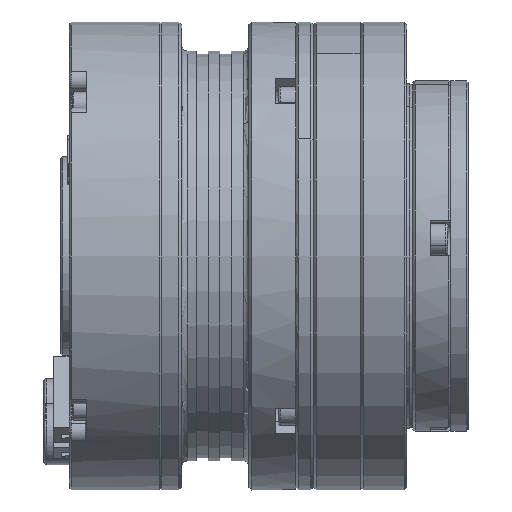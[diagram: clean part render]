
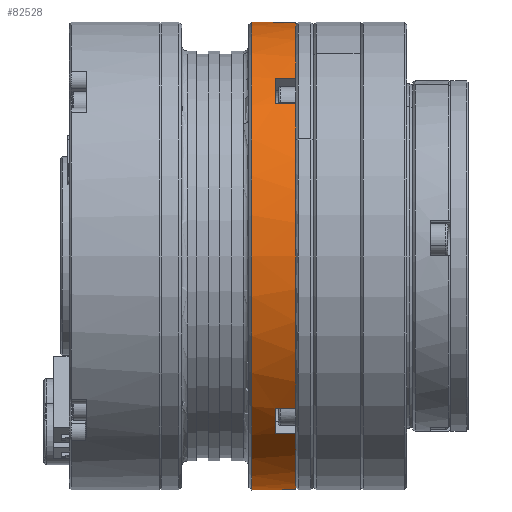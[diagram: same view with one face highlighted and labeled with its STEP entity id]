
A CAD part, front view. The second image highlights one B-rep face of the part: STEP entity #82528.
In plain terms, the highlighted cylindrical face has radius 40 mm (diameter 80 mm), a full revolution.
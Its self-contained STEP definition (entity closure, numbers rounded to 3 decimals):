
#81817=CARTESIAN_POINT('',(-17.5,-40.,0.));
#81818=VERTEX_POINT('',#81817);
#81819=CARTESIAN_POINT('',(-17.5,-30.326,-26.083));
#81820=VERTEX_POINT('',#81819);
#81821=CARTESIAN_POINT('',(-17.5,0.,0.));
#81822=DIRECTION('',(0.,-1.,0.));
#81823=DIRECTION('',(1.,0.,0.));
#81824=AXIS2_PLACEMENT_3D('',#81821,#81823,#81822);
#81825=CIRCLE('',#81824,40.);
#81826=EDGE_CURVE('',#81818,#81820,#81825,.T.);
#81845=CARTESIAN_POINT('',(-17.5,-26.083,-30.326));
#81846=VERTEX_POINT('',#81845);
#81853=CARTESIAN_POINT('',(-17.5,26.083,-30.326));
#81854=VERTEX_POINT('',#81853);
#81855=CARTESIAN_POINT('',(-17.5,0.,0.));
#81856=DIRECTION('',(0.,-0.652,-0.758));
#81857=DIRECTION('',(1.,0.,0.));
#81858=AXIS2_PLACEMENT_3D('',#81855,#81857,#81856);
#81859=CIRCLE('',#81858,40.);
#81860=EDGE_CURVE('',#81846,#81854,#81859,.T.);
#81879=CARTESIAN_POINT('',(-17.5,30.326,-26.083));
#81880=VERTEX_POINT('',#81879);
#81887=CARTESIAN_POINT('',(-17.5,30.326,26.083));
#81888=VERTEX_POINT('',#81887);
#81889=CARTESIAN_POINT('',(-17.5,0.,0.));
#81890=DIRECTION('',(0.,0.758,-0.652));
#81891=DIRECTION('',(1.,0.,0.));
#81892=AXIS2_PLACEMENT_3D('',#81889,#81891,#81890);
#81893=CIRCLE('',#81892,40.);
#81894=EDGE_CURVE('',#81880,#81888,#81893,.T.);
#81913=CARTESIAN_POINT('',(-17.5,26.083,30.326));
#81914=VERTEX_POINT('',#81913);
#81921=CARTESIAN_POINT('',(-17.5,-26.083,30.326));
#81922=VERTEX_POINT('',#81921);
#81923=CARTESIAN_POINT('',(-17.5,0.,0.));
#81924=DIRECTION('',(0.,0.652,0.758));
#81925=DIRECTION('',(1.,0.,0.));
#81926=AXIS2_PLACEMENT_3D('',#81923,#81925,#81924);
#81927=CIRCLE('',#81926,40.);
#81928=EDGE_CURVE('',#81914,#81922,#81927,.T.);
#81947=CARTESIAN_POINT('',(-17.5,-30.326,26.083));
#81948=VERTEX_POINT('',#81947);
#81955=CARTESIAN_POINT('',(-17.5,0.,0.));
#81956=DIRECTION('',(0.,-0.758,0.652));
#81957=DIRECTION('',(1.,0.,0.));
#81958=AXIS2_PLACEMENT_3D('',#81955,#81957,#81956);
#81959=CIRCLE('',#81958,40.);
#81960=EDGE_CURVE('',#81948,#81818,#81959,.T.);
#82408=CARTESIAN_POINT('',(-25.,0.,0.));
#82409=DIRECTION('',(0.,-1.,0.));
#82410=DIRECTION('',(1.,0.,0.));
#82411=AXIS2_PLACEMENT_3D('',#82408,#82410,#82409);
#82412=CYLINDRICAL_SURFACE('',#82411,40.);
#82413=ORIENTED_EDGE('',*,*,#81960,.F.);
#82414=CARTESIAN_POINT('',(-21.,-30.326,26.083));
#82415=VERTEX_POINT('',#82414);
#82416=CARTESIAN_POINT('',(-17.5,-30.326,26.083));
#82417=DIRECTION('',(-1.,0.,0.));
#82418=VECTOR('',#82417,3.5);
#82419=LINE('',#82416,#82418);
#82420=EDGE_CURVE('',#81948,#82415,#82419,.T.);
#82421=ORIENTED_EDGE('',*,*,#82420,.T.);
#82422=CARTESIAN_POINT('',(-21.,-26.083,30.326));
#82423=VERTEX_POINT('',#82422);
#82424=CARTESIAN_POINT('',(-21.,0.,0.));
#82425=DIRECTION('',(0.,-0.758,0.652));
#82426=DIRECTION('',(-1.,0.,0.));
#82427=AXIS2_PLACEMENT_3D('',#82424,#82426,#82425);
#82428=CIRCLE('',#82427,40.);
#82429=EDGE_CURVE('',#82415,#82423,#82428,.T.);
#82430=ORIENTED_EDGE('',*,*,#82429,.T.);
#82431=CARTESIAN_POINT('',(-21.,-26.083,30.326));
#82432=DIRECTION('',(1.,0.,0.));
#82433=VECTOR('',#82432,3.5);
#82434=LINE('',#82431,#82433);
#82435=EDGE_CURVE('',#82423,#81922,#82434,.T.);
#82436=ORIENTED_EDGE('',*,*,#82435,.T.);
#82437=ORIENTED_EDGE('',*,*,#81928,.F.);
#82438=CARTESIAN_POINT('',(-21.,26.083,30.326));
#82439=VERTEX_POINT('',#82438);
#82440=CARTESIAN_POINT('',(-17.5,26.083,30.326));
#82441=DIRECTION('',(-1.,0.,0.));
#82442=VECTOR('',#82441,3.5);
#82443=LINE('',#82440,#82442);
#82444=EDGE_CURVE('',#81914,#82439,#82443,.T.);
#82445=ORIENTED_EDGE('',*,*,#82444,.T.);
#82446=CARTESIAN_POINT('',(-21.,30.326,26.083));
#82447=VERTEX_POINT('',#82446);
#82448=CARTESIAN_POINT('',(-21.,0.,0.));
#82449=DIRECTION('',(0.,0.652,0.758));
#82450=DIRECTION('',(-1.,0.,0.));
#82451=AXIS2_PLACEMENT_3D('',#82448,#82450,#82449);
#82452=CIRCLE('',#82451,40.);
#82453=EDGE_CURVE('',#82439,#82447,#82452,.T.);
#82454=ORIENTED_EDGE('',*,*,#82453,.T.);
#82455=CARTESIAN_POINT('',(-21.,30.326,26.083));
#82456=DIRECTION('',(1.,0.,0.));
#82457=VECTOR('',#82456,3.5);
#82458=LINE('',#82455,#82457);
#82459=EDGE_CURVE('',#82447,#81888,#82458,.T.);
#82460=ORIENTED_EDGE('',*,*,#82459,.T.);
#82461=ORIENTED_EDGE('',*,*,#81894,.F.);
#82462=CARTESIAN_POINT('',(-21.,30.326,-26.083));
#82463=VERTEX_POINT('',#82462);
#82464=CARTESIAN_POINT('',(-17.5,30.326,-26.083));
#82465=DIRECTION('',(-1.,0.,0.));
#82466=VECTOR('',#82465,3.5);
#82467=LINE('',#82464,#82466);
#82468=EDGE_CURVE('',#81880,#82463,#82467,.T.);
#82469=ORIENTED_EDGE('',*,*,#82468,.T.);
#82470=CARTESIAN_POINT('',(-21.,26.083,-30.326));
#82471=VERTEX_POINT('',#82470);
#82472=CARTESIAN_POINT('',(-21.,0.,0.));
#82473=DIRECTION('',(0.,0.758,-0.652));
#82474=DIRECTION('',(-1.,0.,0.));
#82475=AXIS2_PLACEMENT_3D('',#82472,#82474,#82473);
#82476=CIRCLE('',#82475,40.);
#82477=EDGE_CURVE('',#82463,#82471,#82476,.T.);
#82478=ORIENTED_EDGE('',*,*,#82477,.T.);
#82479=CARTESIAN_POINT('',(-21.,26.083,-30.326));
#82480=DIRECTION('',(1.,0.,0.));
#82481=VECTOR('',#82480,3.5);
#82482=LINE('',#82479,#82481);
#82483=EDGE_CURVE('',#82471,#81854,#82482,.T.);
#82484=ORIENTED_EDGE('',*,*,#82483,.T.);
#82485=ORIENTED_EDGE('',*,*,#81860,.F.);
#82486=CARTESIAN_POINT('',(-21.,-26.083,-30.326));
#82487=VERTEX_POINT('',#82486);
#82488=CARTESIAN_POINT('',(-17.5,-26.083,-30.326));
#82489=DIRECTION('',(-1.,0.,0.));
#82490=VECTOR('',#82489,3.5);
#82491=LINE('',#82488,#82490);
#82492=EDGE_CURVE('',#81846,#82487,#82491,.T.);
#82493=ORIENTED_EDGE('',*,*,#82492,.T.);
#82494=CARTESIAN_POINT('',(-21.,-30.326,-26.083));
#82495=VERTEX_POINT('',#82494);
#82496=CARTESIAN_POINT('',(-21.,0.,0.));
#82497=DIRECTION('',(0.,-0.652,-0.758));
#82498=DIRECTION('',(-1.,0.,0.));
#82499=AXIS2_PLACEMENT_3D('',#82496,#82498,#82497);
#82500=CIRCLE('',#82499,40.);
#82501=EDGE_CURVE('',#82487,#82495,#82500,.T.);
#82502=ORIENTED_EDGE('',*,*,#82501,.T.);
#82503=CARTESIAN_POINT('',(-21.,-30.326,-26.083));
#82504=DIRECTION('',(1.,0.,0.));
#82505=VECTOR('',#82504,3.5);
#82506=LINE('',#82503,#82505);
#82507=EDGE_CURVE('',#82495,#81820,#82506,.T.);
#82508=ORIENTED_EDGE('',*,*,#82507,.T.);
#82509=ORIENTED_EDGE('',*,*,#81826,.F.);
#82510=CARTESIAN_POINT('',(-25.,-40.,0.));
#82511=VERTEX_POINT('',#82510);
#82512=CARTESIAN_POINT('',(-17.5,-40.,0.));
#82513=DIRECTION('',(-1.,0.,0.));
#82514=VECTOR('',#82513,7.5);
#82515=LINE('',#82512,#82514);
#82516=EDGE_CURVE('',#81818,#82511,#82515,.T.);
#82517=ORIENTED_EDGE('',*,*,#82516,.T.);
#82518=CARTESIAN_POINT('',(-25.,0.,0.));
#82519=DIRECTION('',(0.,-1.,0.));
#82520=DIRECTION('',(1.,0.,0.));
#82521=AXIS2_PLACEMENT_3D('',#82518,#82520,#82519);
#82522=CIRCLE('',#82521,40.);
#82523=EDGE_CURVE('',#82511,#82511,#82522,.T.);
#82524=ORIENTED_EDGE('',*,*,#82523,.T.);
#82525=ORIENTED_EDGE('',*,*,#82516,.F.);
#82526=EDGE_LOOP('',(#82413,#82421,#82430,#82436,#82437,#82445,#82454,#82460,#82461,#82469,#82478,#82484,#82485,#82493,#82502,#82508,#82509,#82517,#82524,#82525));
#82527=FACE_OUTER_BOUND('',#82526,.T.);
#82528=ADVANCED_FACE('',(#82527),#82412,.T.);
